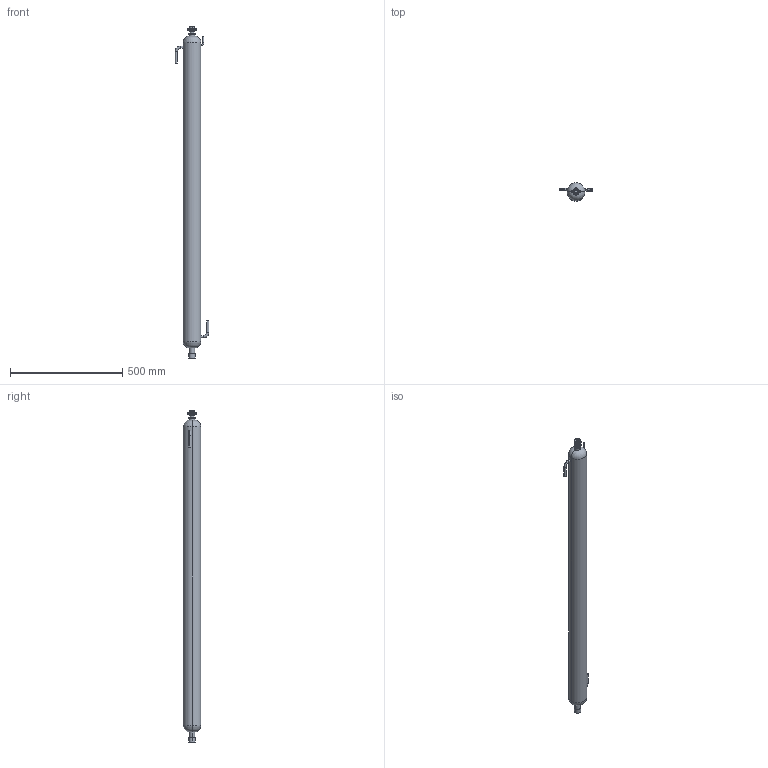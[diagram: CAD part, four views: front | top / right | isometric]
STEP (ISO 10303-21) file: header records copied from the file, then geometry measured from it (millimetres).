
FILE_DESCRIPTION (( 'STEP AP203' ), '1' );
FILE_NAME ('100W-1480-80蚾饜极.STEP', '2024-03-06T08:46:10', ( 'Microwin10' ), ( '' ), 'SwSTEP 2.0', 'SolidWorks 2020', '' );
FILE_SCHEMA (( 'CONFIG_CONTROL_DESIGN' ));
Length unit declared in the file: millimetre
Products named in the file (3): 100俓-1480-80; 100W-1480-80蚾饜极; 苤錨璃
Assembly tree (2 placements, depth 2):
  100W-1480-80蚾饜极
    100俓-1480-80
    苤錨璃
Bounding box: 150 x 80 x 1480 mm (x, y, z)
Volume: 6961946.3 mm3; surface area: 373300.1 mm2
Topology: 3 solids, 3 shells, 428 faces, 1188 edges, 732 vertices
Faces by surface type: cylinder 238, plane 94, bspline 60, torus 20, cone 16
Entity records: 56438 total; most frequent: CARTESIAN_POINT 47092, ORIENTED_EDGE 2368, DIRECTION 1428, EDGE_CURVE 1184, VERTEX_POINT 732, AXIS2_PLACEMENT_3D 537, EDGE_LOOP 456, ADVANCED_FACE 428
